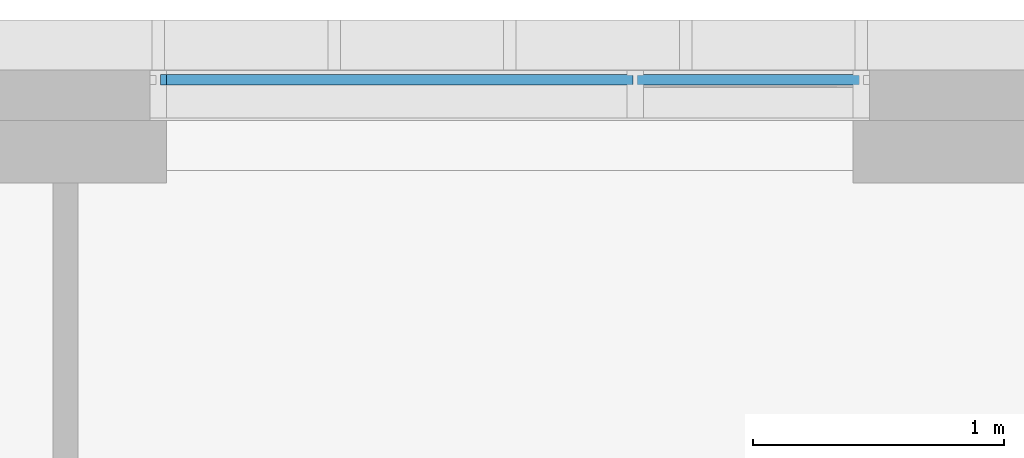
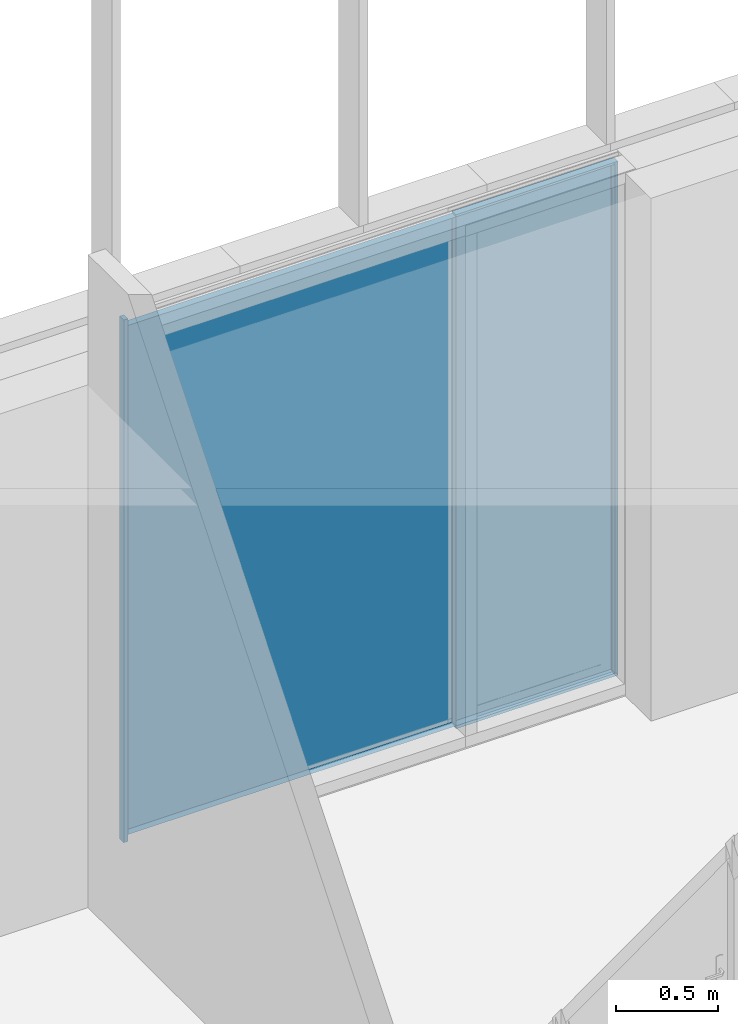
# One storey, part 64 of 240: 2 plates, 1 element without a shape of its own.
"""IFC2X3 building model written with IfcOpenShell, lengths in centimetres."""

from ifc_helpers import new_model, entity, si_unit, converted_unit, derived_unit, direction, frame, origin, origin_2d_with_axis, place, context, subcontext, project, spatial, rectangle, extrude, faceted_brep, source, transform, mapped, material, layer, layer_set, layer_usage, type_object, type_shapes, element, aggregate, save


model = new_model("IFC2X3")

# Units and contexts
model_context = context("Model", 3, precision=0.001, world=origin(), true_north=direction((6.12303176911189e-17, 1.0)))
body_context = subcontext(model_context, "Body", "Model", "MODEL_VIEW")
ifc_project = project(units=[si_unit("LENGTHUNIT", "METRE", prefix="CENTI"), si_unit("AREAUNIT", "SQUARE_METRE"), si_unit("VOLUMEUNIT", "CUBIC_METRE"), converted_unit("PLANEANGLEUNIT", "DEGREE", entity("IfcRatioMeasure", 0.0174532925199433), si_unit("PLANEANGLEUNIT", "RADIAN"), dimensions=[0, 0, 0, 0, 0, 0, 0]), si_unit("MASSUNIT", "GRAM", prefix="KILO"), derived_unit("MASSDENSITYUNIT", [(si_unit("MASSUNIT", "GRAM", prefix="KILO"), 1), (si_unit("LENGTHUNIT", "METRE"), -3)]), si_unit("TIMEUNIT", "SECOND"), si_unit("FREQUENCYUNIT", "HERTZ"), si_unit("THERMODYNAMICTEMPERATUREUNIT", "DEGREE_CELSIUS"), derived_unit("THERMALTRANSMITTANCEUNIT", [(si_unit("MASSUNIT", "GRAM", prefix="KILO"), 1), (si_unit("THERMODYNAMICTEMPERATUREUNIT", "KELVIN"), -1), (si_unit("TIMEUNIT", "SECOND"), -3)]), derived_unit("VOLUMETRICFLOWRATEUNIT", [(si_unit("LENGTHUNIT", "METRE"), 3), (si_unit("TIMEUNIT", "SECOND"), -1)]), si_unit("ELECTRICCURRENTUNIT", "AMPERE"), si_unit("ELECTRICVOLTAGEUNIT", "VOLT"), si_unit("POWERUNIT", "WATT"), si_unit("FORCEUNIT", "NEWTON", prefix="KILO"), si_unit("ILLUMINANCEUNIT", "LUX"), si_unit("LUMINOUSFLUXUNIT", "LUMEN"), si_unit("LUMINOUSINTENSITYUNIT", "CANDELA"), derived_unit("USERDEFINED", [(si_unit("MASSUNIT", "GRAM", prefix="KILO"), -1), (si_unit("LENGTHUNIT", "METRE"), -2), (si_unit("TIMEUNIT", "SECOND"), 3), (si_unit("LUMINOUSFLUXUNIT", "LUMEN"), 1)]), derived_unit("LINEARVELOCITYUNIT", [(si_unit("LENGTHUNIT", "METRE"), 1), (si_unit("TIMEUNIT", "SECOND"), -1)]), si_unit("PRESSUREUNIT", "PASCAL"), derived_unit("USERDEFINED", [(si_unit("LENGTHUNIT", "METRE"), -2), (si_unit("MASSUNIT", "GRAM", prefix="KILO"), 1), (si_unit("TIMEUNIT", "SECOND"), -2)])], contexts=[model_context])

# Site, building, storey
site_placement = place(None, frame((-2781.94577612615, 7442.24238424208, 0.0)))
site = spatial("IfcSite", under=ifc_project, at=site_placement, Name="Default", CompositionType="ELEMENT")
building_placement = place(site_placement, origin())
building = spatial("IfcBuilding", under=site, at=building_placement, CompositionType="ELEMENT")
storey_placement = place(building_placement, origin())
storey = spatial("IfcBuildingStorey", under=building, at=storey_placement, Name="N00 - COO", CompositionType="ELEMENT", Elevation=0.0)

# Curtain wall, plates
curtain_wall_type = type_object("IfcCurtainWallType", Name="Mur-rideau:07 - mur rideau trame 280 cm", PredefinedType="NOTDEFINED")
curtain_wall_placement = place(building_placement, origin())
curtain_wall = element("IfcCurtainWall", 1, at=curtain_wall_placement, inside=storey, type_object=curtain_wall_type, Name="Mur-rideau:07 - mur rideau trame 280 cm", ObjectType="Mur-rideau:07 - mur rideau trame 280 cm")
ifc_material = material(Name="Verre")
ifc_layer = layer(ifc_material, 4.0)
ifc_layer_set = layer_set([ifc_layer], Name="Panneau système:Vitré")
ifc_layer_usage = layer_usage(ifc_layer_set, "AXIS3", "POSITIVE", 0.0)
plate_type_1 = type_object("IfcPlateType", Name="Vitré", PredefinedType="CURTAIN_PANEL", material=ifc_layer_set)
shared_shape_1 = source(origin(), body_context, "Body", "SweptSolid", [
    extrude(rectangle(XDim=4.0, YDim=2.38124996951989, at=origin_2d_with_axis()), frame((0.0, 0.0, 0.0), z_axis=(0.0, 0.0, 1.0), x_axis=(0.0, 1.0, 0.0)), (0.0, 0.0, 1.0), 313.0),
])
type_shapes(plate_type_1, [shared_shape_1])
plate_1_placement = place(curtain_wall_placement, frame((-6727.44050261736, 26.2000000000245, 0.0), z_axis=(0.0, 0.0, 1.0), x_axis=(-1.0, 0.0, 0.0)))
plate_1 = element("IfcPlate", 2, at=plate_1_placement, type_object=plate_type_1, material=ifc_layer_usage, Name="Panneau système:Vitré", ObjectType="Panneau système:Vitré", context=body_context, shape_type="MappedRepresentation", body=[
    mapped(shared_shape_1, transform((0.0, 0.0, 0.0), scale=1.0)),
])
plate_type_2 = type_object("IfcPlateType", Name="Vitré", PredefinedType="CURTAIN_PANEL", material=ifc_layer_set)
shared_shape_2 = source(origin(), body_context, "Body", "Brep", [
    faceted_brep([(-137.07187501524, -2.0, 1.73749999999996), (138.809375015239, -2.0, 1.73749999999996), (138.809375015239, -2.0, 306.5), (-137.07187501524, -2.0, 306.5), (-137.07187501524, 2.0, 1.73749999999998), (-137.07187501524, 2.0, 306.5), (138.809375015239, 2.0, 306.5), (138.809375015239, 2.0, 1.73749999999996), (-47.0718750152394, 2.0, 0.0), (-47.0718750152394, 2.0, 307.7375), (-138.80937501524, 2.0, 307.7375), (-138.80937501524, 2.0, 0.0), (-138.80937501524, -2.0, 0.0), (-47.0718750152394, -2.0, 0.0), (-138.80937501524, -2.0, 307.7375), (-47.0718750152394, -2.0, 307.7375)], [[[0, 1, 2, 3]], [[4, 5, 6, 7], [8, 9, 10, 11]], [[1, 0, 4, 7]], [[2, 1, 7, 6]], [[3, 2, 6, 5]], [[0, 3, 5, 4]], [[12, 13, 8, 11]], [[14, 12, 11, 10]], [[15, 14, 10, 9]], [[13, 15, 9, 8]], [[13, 12, 14, 15]]]),
])
type_shapes(plate_type_2, [shared_shape_2])
plate_2_placement = place(curtain_wall_placement, frame((-6587.44050261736, 26.2000000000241, 2.38125000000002), z_axis=(0.0, 0.0, 1.0), x_axis=(-1.0, 0.0, 0.0)))
plate_2 = element("IfcPlate", 3, at=plate_2_placement, type_object=plate_type_2, material=ifc_material, Name="Panneau système:Vitré", ObjectType="Panneau système:Vitré", context=body_context, shape_type="MappedRepresentation", body=[
    mapped(shared_shape_2, transform((0.0, 0.0, 0.0), scale=1.0)),
])
aggregate(curtain_wall, [plate_2, plate_1])

save(model, "model.ifc")
